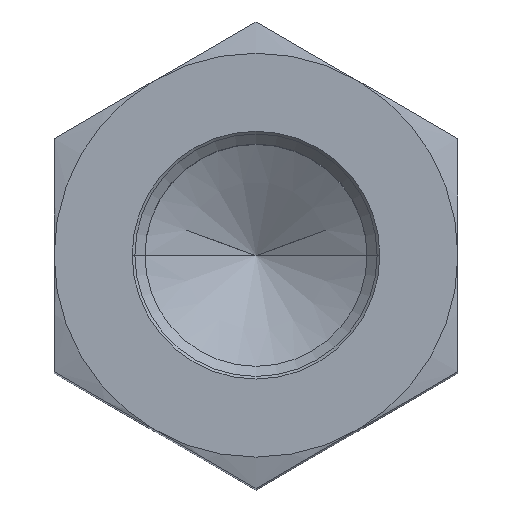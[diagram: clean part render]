
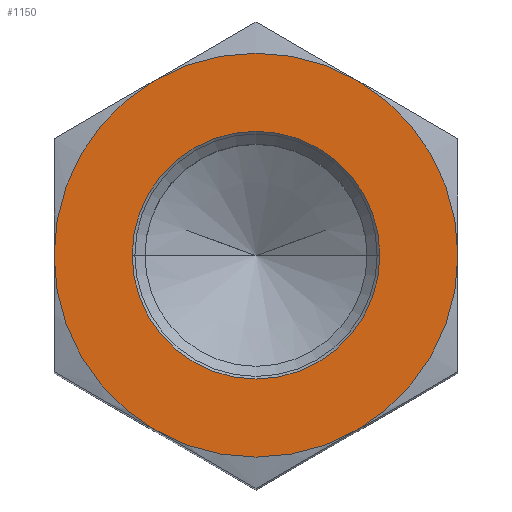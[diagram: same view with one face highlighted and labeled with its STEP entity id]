
A CAD part, top view. The second image highlights one B-rep face of the part: STEP entity #1150.
In plain terms, the highlighted planar face has unit normal (0, 0, 1).
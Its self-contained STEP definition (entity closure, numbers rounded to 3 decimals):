
#521=CARTESIAN_POINT('',(0.,0.,72.));
#522=DIRECTION('',(0.,0.,-1.));
#523=DIRECTION('',(1.,0.,0.));
#524=AXIS2_PLACEMENT_3D('',#521,#522,#523);
#529=CARTESIAN_POINT('',(0.,0.,72.));
#530=DIRECTION('',(0.,0.,-1.));
#531=DIRECTION('',(0.5,-0.866,0.));
#532=AXIS2_PLACEMENT_3D('',#529,#530,#531);
#537=CARTESIAN_POINT('',(0.,0.,72.));
#538=DIRECTION('',(0.,0.,-1.));
#539=DIRECTION('',(-0.5,-0.866,0.));
#540=AXIS2_PLACEMENT_3D('',#537,#538,#539);
#545=CARTESIAN_POINT('',(0.,0.,72.));
#546=DIRECTION('',(0.,0.,-1.));
#547=DIRECTION('',(-1.,0.,0.));
#548=AXIS2_PLACEMENT_3D('',#545,#546,#547);
#553=CARTESIAN_POINT('',(0.,0.,72.));
#554=DIRECTION('',(0.,0.,-1.));
#555=DIRECTION('',(-0.5,0.866,0.));
#556=AXIS2_PLACEMENT_3D('',#553,#554,#555);
#561=CARTESIAN_POINT('',(0.,0.,72.));
#562=DIRECTION('',(0.,0.,-1.));
#563=DIRECTION('',(0.5,0.866,0.));
#564=AXIS2_PLACEMENT_3D('',#561,#562,#563);
#569=CARTESIAN_POINT('',(0.,0.,72.));
#570=DIRECTION('',(0.,0.,1.));
#571=DIRECTION('',(-1.,0.,0.));
#572=AXIS2_PLACEMENT_3D('',#569,#570,#571);
#577=CARTESIAN_POINT('',(0.,0.,72.));
#578=DIRECTION('',(0.,0.,1.));
#579=DIRECTION('',(1.,0.,0.));
#580=AXIS2_PLACEMENT_3D('',#577,#578,#579);
#816=CARTESIAN_POINT('',(15.,0.,72.));
#817=CARTESIAN_POINT('',(7.5,-12.99,72.));
#818=VERTEX_POINT('',#816);
#819=VERTEX_POINT('',#817);
#820=CARTESIAN_POINT('',(-7.5,-12.99,72.));
#821=VERTEX_POINT('',#820);
#822=CARTESIAN_POINT('',(-15.,0.,72.));
#823=VERTEX_POINT('',#822);
#824=CARTESIAN_POINT('',(-7.5,12.99,72.));
#825=VERTEX_POINT('',#824);
#826=CARTESIAN_POINT('',(7.5,12.99,72.));
#827=VERTEX_POINT('',#826);
#856=CARTESIAN_POINT('',(-9.2,0.,72.));
#857=CARTESIAN_POINT('',(9.2,0.,72.));
#858=VERTEX_POINT('',#856);
#859=VERTEX_POINT('',#857);
#1128=CARTESIAN_POINT('',(0.,0.,72.));
#1129=DIRECTION('',(0.,0.,1.));
#1130=DIRECTION('',(1.,0.,0.));
#1131=AXIS2_PLACEMENT_3D('',#1128,#1129,#1130);
#1132=PLANE('',#1131);
#1134=ORIENTED_EDGE('',*,*,#1133,.T.);
#1136=ORIENTED_EDGE('',*,*,#1135,.T.);
#1138=ORIENTED_EDGE('',*,*,#1137,.T.);
#1139=ORIENTED_EDGE('',*,*,#1099,.T.);
#1140=ORIENTED_EDGE('',*,*,#1111,.T.);
#1141=ORIENTED_EDGE('',*,*,#1123,.T.);
#1142=EDGE_LOOP('',(#1134,#1136,#1138,#1139,#1140,#1141));
#1143=FACE_OUTER_BOUND('',#1142,.F.);
#1145=ORIENTED_EDGE('',*,*,#1144,.T.);
#1147=ORIENTED_EDGE('',*,*,#1146,.T.);
#1148=EDGE_LOOP('',(#1145,#1147));
#1149=FACE_BOUND('',#1148,.F.);
#525=CIRCLE('',#524,15.);
#533=CIRCLE('',#532,15.);
#541=CIRCLE('',#540,15.);
#549=CIRCLE('',#548,15.);
#557=CIRCLE('',#556,15.);
#565=CIRCLE('',#564,15.);
#573=CIRCLE('',#572,9.2);
#581=CIRCLE('',#580,9.2);
#1099=EDGE_CURVE('',#823,#825,#549,.T.);
#1111=EDGE_CURVE('',#825,#827,#557,.T.);
#1123=EDGE_CURVE('',#827,#818,#565,.T.);
#1133=EDGE_CURVE('',#818,#819,#525,.T.);
#1135=EDGE_CURVE('',#819,#821,#533,.T.);
#1137=EDGE_CURVE('',#821,#823,#541,.T.);
#1144=EDGE_CURVE('',#858,#859,#573,.T.);
#1146=EDGE_CURVE('',#859,#858,#581,.T.);
#1150=ADVANCED_FACE('',(#1143,#1149),#1132,.T.);
